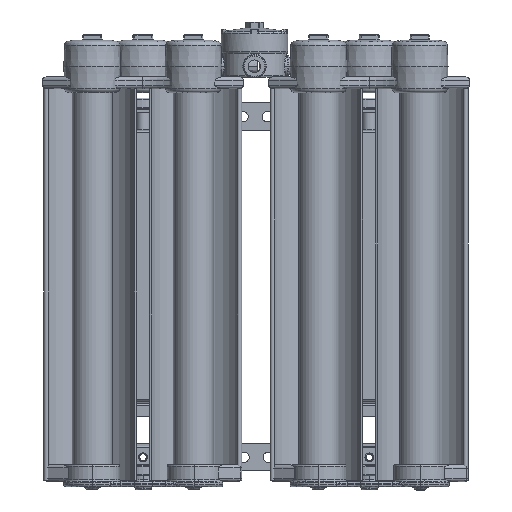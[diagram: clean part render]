
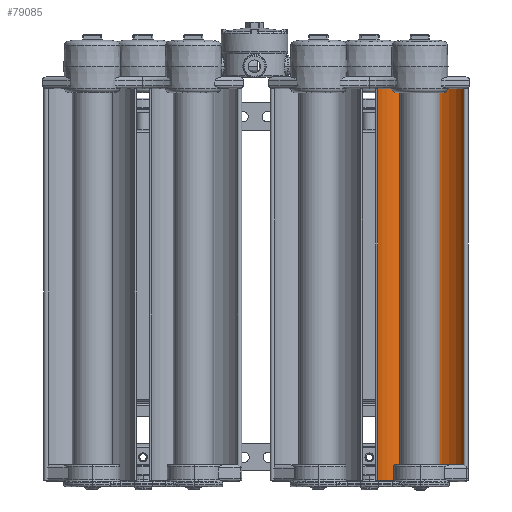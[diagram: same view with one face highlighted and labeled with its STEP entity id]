
A CAD part, front view. The second image highlights one B-rep face of the part: STEP entity #79085.
In plain terms, the highlighted cylindrical face has radius 73.187 mm (diameter 146.374 mm), a partial arc.
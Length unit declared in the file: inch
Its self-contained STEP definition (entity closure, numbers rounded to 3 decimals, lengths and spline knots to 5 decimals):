
#1162 = VECTOR ( 'NONE', #51970, 39.37008 ) ;
#1293 = EDGE_CURVE ( 'NONE', #30143, #61709, #36570, .T. ) ;
#3756 = VECTOR ( 'NONE', #24213, 39.37008 ) ;
#4410 = AXIS2_PLACEMENT_3D ( 'NONE', #24346, #12409, #6204 ) ;
#6204 = DIRECTION ( 'NONE',  ( 1., 0., 0. ) ) ;
#10975 = EDGE_CURVE ( 'NONE', #27777, #60134, #50511, .T. ) ;
#11307 = DIRECTION ( 'NONE',  ( 0., 0., -1. ) ) ;
#12409 = DIRECTION ( 'NONE',  ( 0., 0., 1. ) ) ;
#15534 = AXIS2_PLACEMENT_3D ( 'NONE', #67746, #30753, #73940 ) ;
#23512 = EDGE_CURVE ( 'NONE', #30143, #27777, #77715, .T. ) ;
#23899 = CARTESIAN_POINT ( 'NONE',  ( 11.18575, -4.59185, -17.23643 ) ) ;
#24213 = DIRECTION ( 'NONE',  ( 0., 0., 1. ) ) ;
#24346 = CARTESIAN_POINT ( 'NONE',  ( 8.62, -5.90307, -17.23643 ) ) ;
#27777 = VERTEX_POINT ( 'NONE', #23899 ) ;
#28087 = ORIENTED_EDGE ( 'NONE', *, *, #73499, .F. ) ;
#28550 = CYLINDRICAL_SURFACE ( 'NONE', #4410, 2.88138 ) ;
#30143 = VERTEX_POINT ( 'NONE', #79904 ) ;
#30693 = EDGE_LOOP ( 'NONE', ( #28087, #43544, #37572, #47194 ) ) ;
#30753 = DIRECTION ( 'NONE',  ( 0., 0., -1. ) ) ;
#33343 = CARTESIAN_POINT ( 'NONE',  ( 5.96181, -4.79115, -17.23643 ) ) ;
#36570 = LINE ( 'NONE', #33343, #3756 ) ;
#37572 = ORIENTED_EDGE ( 'NONE', *, *, #23512, .T. ) ;
#39711 = CARTESIAN_POINT ( 'NONE',  ( 11.18575, -4.59185, -17.23643 ) ) ;
#41548 = CIRCLE ( 'NONE', #53670, 2.88138 ) ;
#42279 = CARTESIAN_POINT ( 'NONE',  ( 5.96181, -4.79115, 5.88857 ) ) ;
#43544 = ORIENTED_EDGE ( 'NONE', *, *, #1293, .F. ) ;
#47194 = ORIENTED_EDGE ( 'NONE', *, *, #10975, .T. ) ;
#48389 = CARTESIAN_POINT ( 'NONE',  ( 8.62, -5.90307, 5.88857 ) ) ;
#49178 = CARTESIAN_POINT ( 'NONE',  ( 11.18575, -4.59185, 5.88857 ) ) ;
#50511 = LINE ( 'NONE', #39711, #1162 ) ;
#51970 = DIRECTION ( 'NONE',  ( 0., 0., 1. ) ) ;
#53670 = AXIS2_PLACEMENT_3D ( 'NONE', #48389, #11307, #54579 ) ;
#54579 = DIRECTION ( 'NONE',  ( -1., 0., 0. ) ) ;
#60134 = VERTEX_POINT ( 'NONE', #49178 ) ;
#61709 = VERTEX_POINT ( 'NONE', #42279 ) ;
#63339 = FACE_OUTER_BOUND ( 'NONE', #30693, .T. ) ;
#67746 = CARTESIAN_POINT ( 'NONE',  ( 8.62, -5.90307, -17.23643 ) ) ;
#73499 = EDGE_CURVE ( 'NONE', #61709, #60134, #41548, .T. ) ;
#73940 = DIRECTION ( 'NONE',  ( -1., 0., 0. ) ) ;
#77715 = CIRCLE ( 'NONE', #15534, 2.88138 ) ;
#79085 = ADVANCED_FACE ( 'NONE', ( #63339 ), #28550, .F. ) ;
#79904 = CARTESIAN_POINT ( 'NONE',  ( 5.96181, -4.79115, -17.23643 ) ) ;
